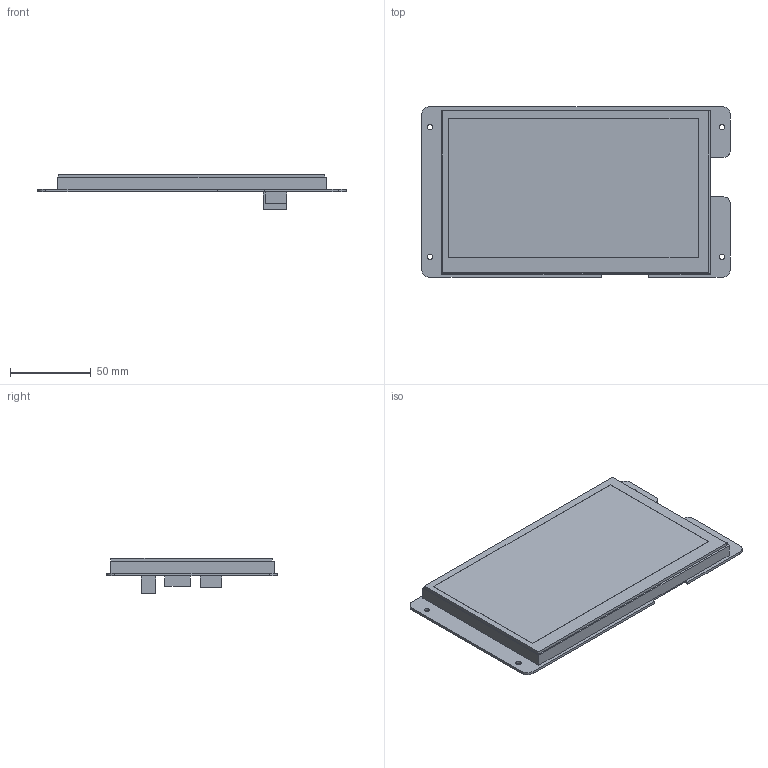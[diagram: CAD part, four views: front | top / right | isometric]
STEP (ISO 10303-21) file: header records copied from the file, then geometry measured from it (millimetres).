
FILE_DESCRIPTION((''),'2;1');
FILE_NAME('DHW070-008LZ04','2022-07-15T',('Administrator'),(''),'PRO/ENGINEER BY PARAMETRIC TECHNOLOGY CORPORATION, 2014320','PRO/ENGINEER BY PARAMETRIC TECHNOLOGY CORPORATION, 2014320','');
FILE_SCHEMA(('CONFIG_CONTROL_DESIGN','SHAPE_APPEARANCE_LAYERS_GROUPS'));
Length unit declared in the file: millimetre
Products named in the file (1): DHW070-008LZ04
Bounding box: 190.5 x 105.41 x 21.88 mm (x, y, z)
Volume: 188368.1 mm3; surface area: 46705.3 mm2
Topology: 1 solids, 1 shells, 61 faces, 158 edges, 104 vertices
Faces by surface type: plane 47, cylinder 14
Entity records: 1939 total; most frequent: CARTESIAN_POINT 323, ORIENTED_EDGE 316, DIRECTION 308, EDGE_CURVE 158, VECTOR 130, LINE 130, VERTEX_POINT 104, AXIS2_PLACEMENT_3D 89
